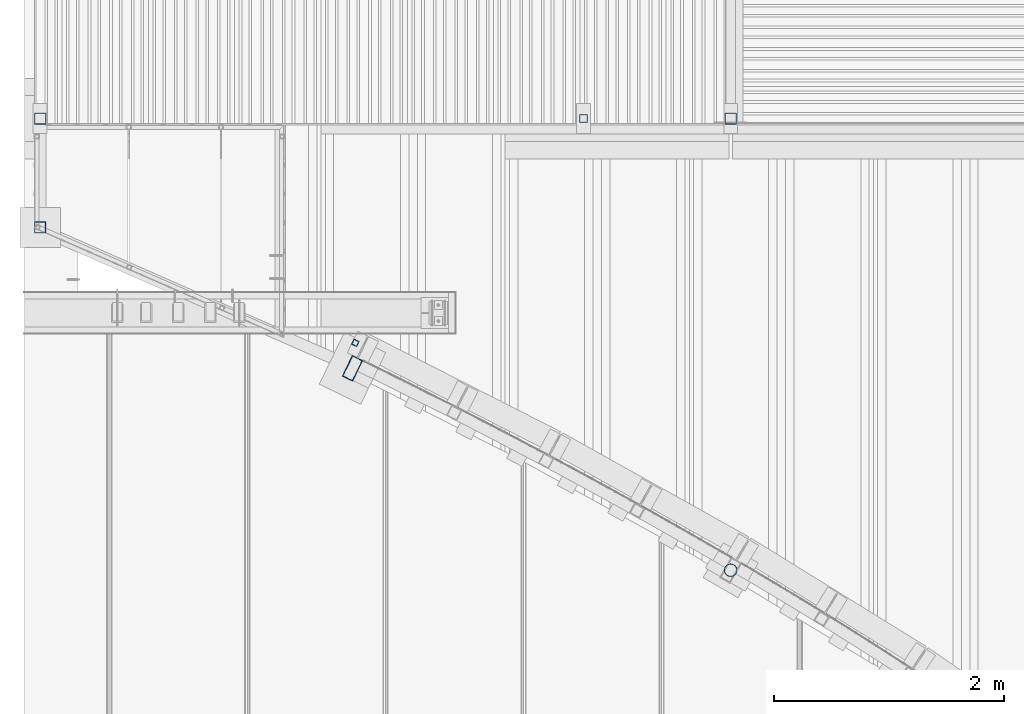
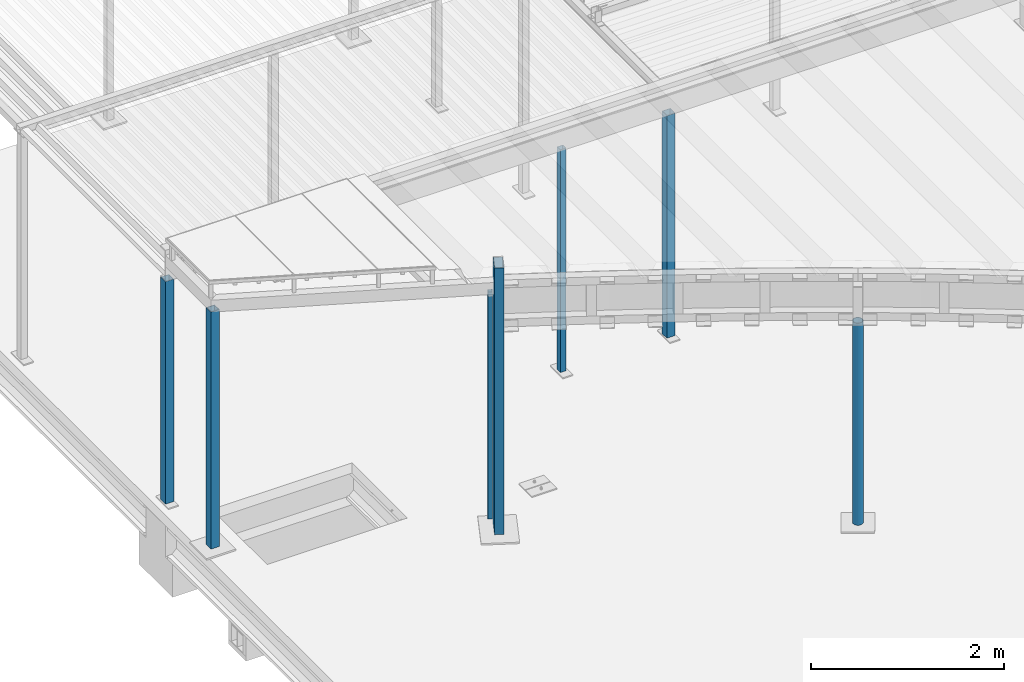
# One storey, part 2 of 98: 7 columns.
"""IFC2X3 building model written with IfcOpenShell, lengths in millimetres."""

from ifc_helpers import new_model, entity, si_unit, converted_unit, derived_unit, direction, frame, origin_with_axes, place, context, subcontext, project, spatial, faceted_brep, material, type_object, element, save


model = new_model("IFC2X3")

# Units and contexts
model_context = context("Model", 3, precision=0.01, world=frame((0.0, 4.29681676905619e-09, 0.0)), true_north=direction((4.01073788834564e-13, 1.0)))
plan_context = context("Plan", 3, precision=0.01, world=frame((0.0, 4.29681676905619e-09, 0.0)), true_north=direction((4.01073788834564e-13, 1.0)))
body_context = subcontext(model_context, "Body", "Model", "MODEL_VIEW")
ifc_project = project(units=[converted_unit("PLANEANGLEUNIT", "DEGREE", entity("IfcPositiveLengthMeasure", 0.0174532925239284), si_unit("PLANEANGLEUNIT", "RADIAN"), dimensions=[0, 0, 0, 0, 0, 0, 0]), si_unit("AREAUNIT", "SQUARE_METRE"), si_unit("LENGTHUNIT", "METRE", prefix="MILLI"), si_unit("MASSUNIT", "GRAM", prefix="KILO"), si_unit("POWERUNIT", "WATT"), si_unit("PRESSUREUNIT", "PASCAL"), si_unit("FORCEUNIT", "NEWTON", prefix="KILO"), si_unit("ELECTRICCURRENTUNIT", "AMPERE"), si_unit("THERMODYNAMICTEMPERATUREUNIT", "DEGREE_CELSIUS"), si_unit("TIMEUNIT", "SECOND"), si_unit("VOLUMEUNIT", "CUBIC_METRE"), derived_unit("LINEARVELOCITYUNIT", [(si_unit("LENGTHUNIT", "METRE"), 1), (si_unit("TIMEUNIT", "SECOND"), -1)]), derived_unit("VOLUMETRICFLOWRATEUNIT", [(si_unit("VOLUMEUNIT", "CUBIC_METRE"), 1), (si_unit("TIMEUNIT", "SECOND"), -1)]), derived_unit("THERMALTRANSMITTANCEUNIT", [(si_unit("POWERUNIT", "WATT"), 1), (si_unit("THERMODYNAMICTEMPERATUREUNIT", "KELVIN"), -1), (si_unit("AREAUNIT", "SQUARE_METRE"), -1)])], contexts=[model_context, plan_context])

# Site, building, storey
site_placement = place(None, frame((0.0, -4.29681676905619e-09, 0.0), z_axis=(0.0, 0.0, 1.0), x_axis=(1.0, 0.0, 0.0)))
site = spatial("IfcSite", under=ifc_project, at=site_placement, Name="Gardermoen", CompositionType="ELEMENT")
building_placement = place(site_placement, frame((0.0, 4.29681676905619e-09, 0.0), z_axis=(0.0, 0.0, 1.0), x_axis=(1.0, 0.0, 0.0)))
building = spatial("IfcBuilding", under=site, at=building_placement, Name="TS", CompositionType="ELEMENT")
storey_placement = place(building_placement, origin_with_axes())
storey = spatial("IfcBuildingStorey", under=building, at=storey_placement, Name="D", CompositionType="ELEMENT", Elevation=0.0)

# Columns
ifc_material = material(Name="STEEL/S355")
column_type_1 = type_object("IfcColumnType", Name="RHS70*5", PredefinedType="NOTDEFINED")
column_1_placement = place(storey_placement, frame((518719.998435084, 414499.981078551, 203970.0), z_axis=(-0.999999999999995, -9.99999902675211e-08, 0.0), x_axis=(0.0, 0.0, 1.0)))
element("IfcColumn", 1, at=column_1_placement, inside=storey, type_object=column_type_1, material=ifc_material, Name="STÅLSØYLE", ObjectType="RHS70*5", context=body_context, shape_type="Brep", body=[
    faceted_brep([(-25.0, 30.0, -30.0), (-25.0, -30.0, -30.0), (2790.0, -30.0, -30.0), (2790.0, 30.0, -30.0), (-25.0, -30.0, 30.0), (2790.0, -30.0, 30.0), (-25.0, 30.0, 30.0), (2790.0, 30.0, 30.0), (-25.0000153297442, 35.0000000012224, -35.0), (-25.0000153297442, 35.0000000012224, 35.0), (2790.0, 35.0, 35.0), (2790.0, 35.0, -35.0), (-24.9999846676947, -35.0000000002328, 35.0), (2790.0, -35.0, 35.0), (-24.9999846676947, -35.0000000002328, -35.0), (2790.0, -35.0, -35.0)], [[[0, 1, 2, 3]], [[1, 4, 5, 2]], [[4, 6, 7, 5]], [[6, 0, 3, 7]], [[8, 9, 10, 11]], [[9, 12, 13, 10]], [[12, 14, 15, 13]], [[14, 8, 11, 15]], [[13, 15, 11, 10], [5, 7, 3, 2]], [[14, 12, 9, 8], [6, 4, 1, 0]]]),
])
column_type_2 = type_object("IfcColumnType", Name="RHS100*5", PredefinedType="NOTDEFINED")
column_2_placement = place(storey_placement, frame((513999.998435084, 414499.981078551, 203970.0), z_axis=(-0.999999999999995, -9.99999902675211e-08, 0.0), x_axis=(0.0, 0.0, 1.0)))
element("IfcColumn", 2, at=column_2_placement, inside=storey, type_object=column_type_2, material=ifc_material, Name="STÅLSØYLE", ObjectType="RHS100*5", context=body_context, shape_type="Brep", body=[
    faceted_brep([(-25.0, 45.0, -45.0), (-25.0, -45.0, -45.0), (2790.64314720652, -45.0, -45.0), (2790.64314720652, 45.0, -45.0), (-25.0, -45.0, 45.0), (2790.64314720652, -45.0, 45.0), (-25.0, 45.0, 45.0), (2790.64314720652, 45.0, 45.0), (-25.0, 50.0, -50.0), (-25.0, 50.0, 50.0), (2790.64314720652, 50.0, 50.0), (2790.64314720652, 50.0, -50.0), (-25.0, -50.0, 50.0), (2790.64314720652, -50.0, 50.0), (-25.0, -50.0, -50.0), (2790.64314720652, -50.0, -50.0)], [[[0, 1, 2, 3]], [[1, 4, 5, 2]], [[4, 6, 7, 5]], [[6, 0, 3, 7]], [[8, 9, 10, 11]], [[9, 12, 13, 10]], [[12, 14, 15, 13]], [[14, 8, 11, 15]], [[13, 15, 11, 10], [5, 7, 3, 2]], [[14, 12, 9, 8], [6, 4, 1, 0]]]),
])
column_3_placement = place(storey_placement, frame((519999.998435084, 414499.981078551, 203970.0), z_axis=(-0.999999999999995, -9.99999902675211e-08, 0.0), x_axis=(0.0, 0.0, 1.0)))
element("IfcColumn", 3, at=column_3_placement, inside=storey, type_object=column_type_2, material=ifc_material, Name="STÅLSØYLE", ObjectType="RHS100*5", context=body_context, shape_type="Brep", body=[
    faceted_brep([(-25.0, 45.0, -45.0), (-25.0, -45.0, -45.0), (2790.0, -45.0, -45.0), (2790.0, 45.0, -45.0), (-25.0, -45.0, 45.0), (2790.0, -45.0, 45.0), (-25.0, 45.0, 45.0), (2790.0, 45.0, 45.0), (-25.0, 50.0, -50.0), (-25.0, 50.0, 50.0), (2790.0, 50.0, 50.0), (2790.0, 50.0, -50.0), (-25.0, -50.0, 50.0), (2790.0, -50.0, 50.0), (-25.0, -50.0, -50.0), (2790.0, -50.0, -50.0)], [[[0, 1, 2, 3]], [[1, 4, 5, 2]], [[4, 6, 7, 5]], [[6, 0, 3, 7]], [[8, 9, 10, 11]], [[9, 12, 13, 10]], [[12, 14, 15, 13]], [[14, 8, 11, 15]], [[13, 15, 11, 10], [5, 7, 3, 2]], [[14, 12, 9, 8], [6, 4, 1, 0]]]),
])
column_type_3 = type_object("IfcColumnType", Name="RØR114.3X6.0", PredefinedType="NOTDEFINED")
column_4_placement = place(storey_placement, frame((519999.998435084, 410575.388109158, 203930.0), z_axis=(-0.864160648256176, 0.503216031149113, 0.0), x_axis=(0.0, 0.0, 1.0)))
element("IfcColumn", 4, at=column_4_placement, inside=storey, type_object=column_type_3, material=ifc_material, Name="STÅLSØYLE", ObjectType="RØR114.3X6.0", context=body_context, shape_type="Brep", body=[
    faceted_brep([(20.0, -51.1500000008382, -1.19325704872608e-09), (20.0, -48.6465408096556, 15.8062192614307), (2575.0, -48.6465408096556, 15.8062192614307), (2575.0, -51.1500000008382, -1.19325704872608e-09), (20.0, -41.3812192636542, 30.0652156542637), (2575.0, -41.3812192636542, 30.0652156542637), (20.0, -30.0652156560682, 41.3812192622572), (2575.0, -30.0652156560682, 41.3812192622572), (20.0, -15.8062192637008, 48.646540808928), (2575.0, -15.8062192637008, 48.646540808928), (20.0, -1.04773789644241e-09, 51.1500000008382), (2575.0, -1.04773789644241e-09, 51.1500000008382), (20.0, 15.8062192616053, 48.6465408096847), (2575.0, 15.8062192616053, 48.6465408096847), (20.0, 30.0652156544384, 41.3812192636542), (2575.0, 30.0652156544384, 41.3812192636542), (20.0, 41.3812192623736, 30.0652156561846), (2575.0, 41.3812192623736, 30.0652156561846), (20.0, 48.6465408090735, 15.8062192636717), (2575.0, 48.6465408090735, 15.8062192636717), (20.0, 51.1500000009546, 1.10594555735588e-09), (2575.0, 51.1500000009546, 1.10594555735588e-09), (20.0, 48.646540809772, -15.8062192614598), (2575.0, 48.646540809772, -15.8062192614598), (20.0, 41.3812192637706, -30.0652156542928), (2575.0, 41.3812192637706, -30.0652156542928), (20.0, 30.065215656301, -41.3812192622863), (2575.0, 30.065215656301, -41.3812192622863), (20.0, 15.8062192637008, -48.6465408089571), (2575.0, 15.8062192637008, -48.6465408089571), (20.0, 1.28056854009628e-09, -51.1500000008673), (2575.0, 1.28056854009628e-09, -51.1500000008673), (20.0, -15.8062192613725, -48.6465408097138), (2575.0, -15.8062192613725, -48.6465408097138), (20.0, -30.0652156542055, -41.3812192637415), (2575.0, -30.0652156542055, -41.3812192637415), (20.0, -41.3812192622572, -30.0652156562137), (2575.0, -41.3812192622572, -30.0652156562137), (20.0, -48.6465408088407, -15.8062192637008), (2575.0, -48.6465408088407, -15.8062192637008), (20.0, -57.1500000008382, -1.30967237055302e-09), (20.0, -54.3528799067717, -17.6603212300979), (2575.0, -54.3528799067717, -17.6603212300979), (2575.0, -57.1500000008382, -1.30967237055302e-09), (20.0, -46.2353212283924, -33.5919271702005), (2575.0, -46.2353212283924, -33.5919271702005), (20.0, -33.5919271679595, -46.2353212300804), (2575.0, -33.5919271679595, -46.2353212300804), (20.0, -17.6603212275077, -54.3528799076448), (2575.0, -17.6603212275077, -54.3528799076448), (20.0, 1.39698386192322e-09, -57.1500000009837), (2575.0, 1.39698386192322e-09, -57.1500000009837), (20.0, 17.6603212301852, -54.3528799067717), (2575.0, 17.6603212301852, -54.3528799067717), (20.0, 33.5919271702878, -46.2353212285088), (2575.0, 33.5919271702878, -46.2353212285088), (20.0, 46.2353212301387, -33.5919271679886), (2575.0, 46.2353212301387, -33.5919271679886), (20.0, 54.352879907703, -17.6603212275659), (2575.0, 54.352879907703, -17.6603212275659), (20.0, 57.150000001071, 1.30967237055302e-09), (2575.0, 57.150000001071, 1.30967237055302e-09), (20.0, 54.3528799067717, 17.6603212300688), (2575.0, 54.3528799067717, 17.6603212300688), (20.0, 46.2353212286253, 33.5919271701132), (2575.0, 46.2353212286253, 33.5919271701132), (20.0, 33.5919271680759, 46.2353212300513), (2575.0, 33.5919271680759, 46.2353212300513), (20.0, 17.6603212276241, 54.3528799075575), (2575.0, 17.6603212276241, 54.3528799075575), (20.0, -1.16415321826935e-09, 57.1500000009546), (2575.0, -1.16415321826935e-09, 57.1500000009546), (20.0, -17.6603212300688, 54.3528799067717), (2575.0, -17.6603212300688, 54.3528799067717), (20.0, -33.591927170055, 46.2353212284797), (2575.0, -33.591927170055, 46.2353212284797), (20.0, -46.2353212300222, 33.5919271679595), (2575.0, -46.2353212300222, 33.5919271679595), (20.0, -54.3528799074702, 17.6603212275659), (2575.0, -54.3528799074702, 17.6603212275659)], [[[0, 1, 2, 3]], [[1, 4, 5, 2]], [[4, 6, 7, 5]], [[6, 8, 9, 7]], [[8, 10, 11, 9]], [[10, 12, 13, 11]], [[12, 14, 15, 13]], [[14, 16, 17, 15]], [[16, 18, 19, 17]], [[18, 20, 21, 19]], [[20, 22, 23, 21]], [[22, 24, 25, 23]], [[24, 26, 27, 25]], [[26, 28, 29, 27]], [[28, 30, 31, 29]], [[30, 32, 33, 31]], [[32, 34, 35, 33]], [[34, 36, 37, 35]], [[36, 38, 39, 37]], [[38, 0, 3, 39]], [[40, 41, 42, 43]], [[41, 44, 45, 42]], [[44, 46, 47, 45]], [[46, 48, 49, 47]], [[48, 50, 51, 49]], [[50, 52, 53, 51]], [[52, 54, 55, 53]], [[54, 56, 57, 55]], [[56, 58, 59, 57]], [[58, 60, 61, 59]], [[60, 62, 63, 61]], [[62, 64, 65, 63]], [[64, 66, 67, 65]], [[66, 68, 69, 67]], [[68, 70, 71, 69]], [[70, 72, 73, 71]], [[72, 74, 75, 73]], [[74, 76, 77, 75]], [[76, 78, 79, 77]], [[78, 40, 43, 79]], [[45, 47, 49, 51, 53, 55, 57, 59, 61, 63, 65, 67, 69, 71, 73, 75, 77, 79, 43, 42], [5, 7, 9, 11, 13, 15, 17, 19, 21, 23, 25, 27, 29, 31, 33, 35, 37, 39, 3, 2]], [[78, 76, 74, 72, 70, 68, 66, 64, 62, 60, 58, 56, 54, 52, 50, 48, 46, 44, 41, 40], [38, 36, 34, 32, 30, 28, 26, 24, 22, 20, 18, 16, 14, 12, 10, 8, 6, 4, 1, 0]]]),
])
column_type_4 = type_object("IfcColumnType", Name="RHS50*4", PredefinedType="NOTDEFINED")
column_5_placement = place(storey_placement, frame((516738.281729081, 412551.249551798, 203950.0), z_axis=(-0.899534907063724, 0.436848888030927, 0.0), x_axis=(0.0, 0.0, 1.0)))
element("IfcColumn", 5, at=column_5_placement, inside=storey, type_object=column_type_4, material=ifc_material, Name="STÅLSØYLE", ObjectType="RHS50*4", context=body_context, shape_type="Brep", body=[
    faceted_brep([(0.0, 21.0000000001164, -21.0000000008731), (0.0, -21.0000000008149, -21.0000000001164), (2872.99999992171, -21.0000000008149, -21.0000000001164), (2872.99999992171, 21.0000000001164, -21.0000000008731), (0.0, -21.0, 21.0000000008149), (2872.99999992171, -21.0, 21.0000000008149), (0.0, 21.0000000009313, 21.0000000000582), (2872.99999992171, 21.0000000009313, 21.0000000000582), (0.0, 25.0, -25.0), (0.0, 25.0, 25.0), (2872.99999992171, 25.0000000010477, 25.0000000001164), (2872.99999992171, 25.0000000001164, -25.0000000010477), (0.0, -25.0, 25.0), (2872.99999992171, -25.0000000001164, 25.0000000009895), (0.0, -25.0, -25.0), (2872.99999992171, -25.0000000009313, -25.0000000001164)], [[[0, 1, 2, 3]], [[1, 4, 5, 2]], [[4, 6, 7, 5]], [[6, 0, 3, 7]], [[8, 9, 10, 11]], [[9, 12, 13, 10]], [[12, 14, 15, 13]], [[14, 8, 11, 15]], [[13, 15, 11, 10], [5, 7, 3, 2]], [[14, 12, 9, 8], [6, 4, 1, 0]]]),
])
column_type_5 = type_object("IfcColumnType", Name="RHS200*100*5", PredefinedType="NOTDEFINED")
column_6_placement = place(storey_placement, frame((516714.047743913, 412329.663739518, 203929.999999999), z_axis=(0.43684888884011, 0.899534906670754, 0.0), x_axis=(0.0, 0.0, 1.0)))
element("IfcColumn", 6, at=column_6_placement, inside=storey, type_object=column_type_5, material=ifc_material, Name="STÅLSØYLE", ObjectType="RHS200*100*5", context=body_context, shape_type="Brep", body=[
    faceted_brep([(20.000000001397, 45.0000000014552, -94.9999999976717), (20.000000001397, -44.9999999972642, -94.9999999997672), (3392.0, -44.9999999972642, -94.9999999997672), (3392.0, 45.0000000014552, -94.9999999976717), (20.000000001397, -45.0000000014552, 94.9999999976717), (3392.0, -45.0000000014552, 94.9999999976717), (20.000000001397, 44.9999999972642, 94.9999999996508), (3392.0, 44.9999999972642, 94.9999999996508), (20.000000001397, 50.0000000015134, -99.9999999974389), (20.000000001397, 49.9999999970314, 99.9999999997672), (3392.0, 49.9999999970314, 99.9999999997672), (3392.0, 50.0000000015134, -99.9999999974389), (20.000000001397, -50.0000000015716, 99.9999999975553), (3392.0, -50.0000000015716, 99.9999999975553), (20.000000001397, -49.9999999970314, -99.9999999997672), (3392.0, -49.9999999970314, -99.9999999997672)], [[[0, 1, 2, 3]], [[1, 4, 5, 2]], [[4, 6, 7, 5]], [[6, 0, 3, 7]], [[8, 9, 10, 11]], [[9, 12, 13, 10]], [[12, 14, 15, 13]], [[14, 8, 11, 15]], [[13, 15, 11, 10], [5, 7, 3, 2]], [[14, 12, 9, 8], [6, 4, 1, 0]]]),
])
column_type_6 = type_object("IfcColumnType", Name="RHS100*6.3", PredefinedType="NOTDEFINED")
column_7_placement = place(storey_placement, frame((513999.90658548, 413553.83990572, 203950.0), z_axis=(1.0, 0.0, 0.0), x_axis=(0.0, 0.0, 1.0)))
element("IfcColumn", 7, at=column_7_placement, inside=storey, type_object=column_type_6, material=ifc_material, Name="STÅLSØYLE", ObjectType="RHS100*6.3", context=body_context, shape_type="Brep", body=[
    faceted_brep([(0.0, 43.6999998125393, -43.6999998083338), (0.0, -43.6999998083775, -43.6999998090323), (3000.0099999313, -43.6999998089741, -43.6999998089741), (3000.0099999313, 43.6999998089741, -43.6999998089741), (0.0, -43.6999998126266, 43.699999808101), (3000.0099999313, -43.6999998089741, 43.6999998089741), (0.0, 43.6999998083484, 43.6999998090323), (3000.0099999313, 43.6999998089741, 43.6999998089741), (4.07453626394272e-10, 50.0, -50.0), (-3.49245965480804e-10, 50.0, 50.0), (3000.0099999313, 50.0, 50.0), (3000.0099999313, 50.0, -50.0), (-3.49245965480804e-10, -50.0, 50.0), (3000.0099999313, -50.0, 50.0), (4.07453626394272e-10, -50.0, -50.0), (3000.0099999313, -50.0, -50.0)], [[[0, 1, 2, 3]], [[1, 4, 5, 2]], [[4, 6, 7, 5]], [[6, 0, 3, 7]], [[8, 9, 10, 11]], [[9, 12, 13, 10]], [[12, 14, 15, 13]], [[14, 8, 11, 15]], [[13, 15, 11, 10], [5, 7, 3, 2]], [[14, 12, 9, 8], [6, 4, 1, 0]]]),
])

save(model, "model.ifc")
